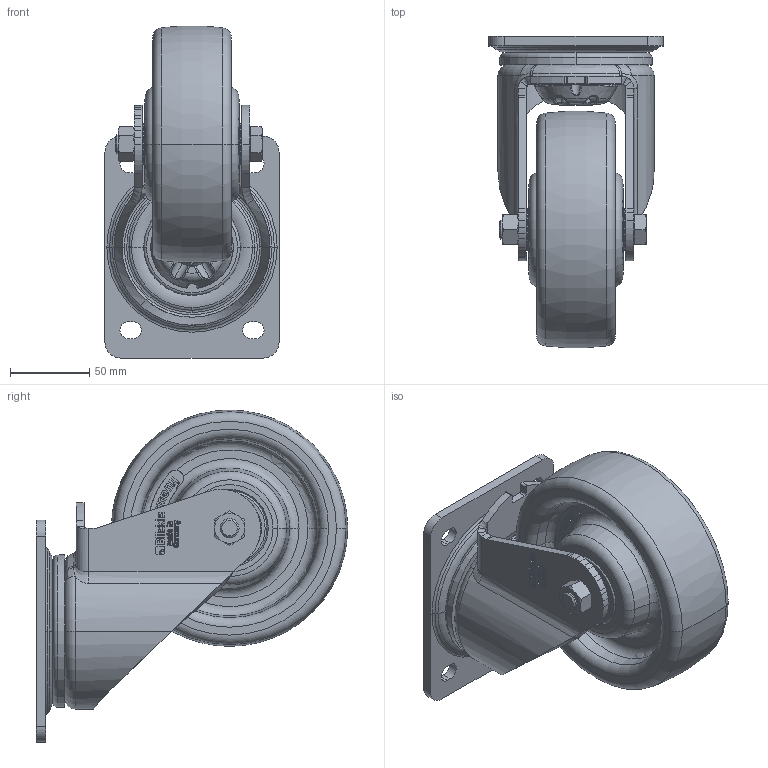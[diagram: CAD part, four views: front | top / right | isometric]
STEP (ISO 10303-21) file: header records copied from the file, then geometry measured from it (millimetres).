
FILE_DESCRIPTION (( 'STEP AP214' ), '1' );
FILE_NAME ('LH-SPO_150K_007047-214.step', '2022-01-05T08:11:56', ( '' ), ( '' ), 'SwSTEP 2.0', 'SolidWorks 2018', '' );
FILE_SCHEMA (( 'AUTOMOTIVE_DESIGN' ));
Length unit declared in the file: millimetre
Products named in the file (5): SPO_3D_G16_SPO_150_20K_006957; GH-LH_150-160_GH-LH-160x60-03_20x60; SPO_150_20K_G16_3D; GH-LH-160x60-03_20x60_G16_3D; LH-SPO_150K_007047-214
Assembly tree (4 placements, depth 3):
  LH-SPO_150K_007047-214
    SPO_3D_G16_SPO_150_20K_006957
      SPO_150_20K_G16_3D
    GH-LH_150-160_GH-LH-160x60-03_20x60
      GH-LH-160x60-03_20x60_G16_3D
Bounding box: 110 x 196.61 x 209.61 mm (x, y, z)
Volume: 1010261.8 mm3; surface area: 194995.6 mm2
Topology: 2 solids, 5 shells, 1842 faces, 4827 edges, 3140 vertices
Faces by surface type: plane 814, bspline 683, torus 143, cylinder 128, cone 74
Entity records: 67915 total; most frequent: CARTESIAN_POINT 25759, ORIENTED_EDGE 9650, DIRECTION 6364, EDGE_CURVE 4825, VERTEX_POINT 3142, VECTOR 2704, LINE 2704, EDGE_LOOP 2009
